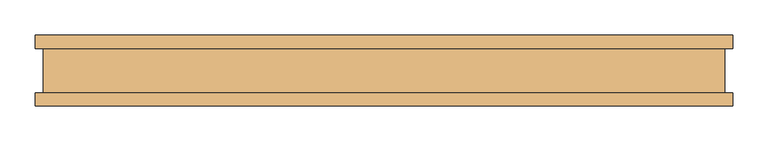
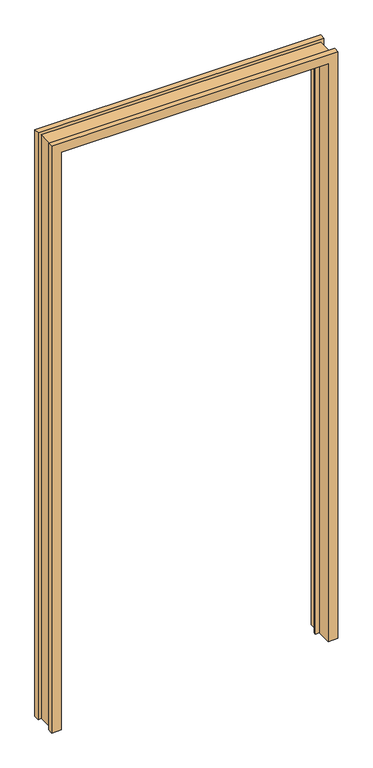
"""IFC4 building model written with IfcOpenShell, lengths in millimetres: door geometry, Frame-Solid_Hinged-AIH-Teknion-FHJA-Jamb_Kit_Single-R2022 : FHJA."""

from ifc_helpers import new_model, si_unit, origin, place, context, project, spatial, faceted_brep, source, transform, mapped, element, save


def door_2b1ba217(model_context):
    return source(origin(), model_context, "Body", "Brep", [
        faceted_brep([(-491.6905792, -31.447233, 0.0), (-480.6923792, -31.447233, 0.0), (-480.6923792, 31.468567, 0.0), (-491.6905792, 31.468567, 0.0), (-491.6905792, 50.010667, 0.0), (-458.6705792, 50.010667, 0.0), (-458.6705792, 10.907167, 0.0), (-445.7165792, 10.907167, 0.0), (-445.7165792, 2.6789063, 0.0), (-458.6705792, 2.6789063, 0.0), (-458.6705792, -49.989233, 0.0), (-491.6905792, -49.989233, 0.0), (-491.6905792, -49.989233, 2133.5925997), (-491.6905792, -31.447233, 2133.5925997), (-458.6705792, -49.989233, 2100.5725997), (458.6705792, -49.989233, 2100.5725997), (458.6705792, -49.989233, 0.0), (491.6905792, -49.989233, 0.0), (491.6905792, -49.989233, 2133.5925997), (-458.6705792, 2.6789063, 2100.5725997), (-445.7165792, 2.6789063, 2087.6185997), (445.7165792, 2.6789063, 2087.6185997), (445.7165792, 2.6789063, 0.0), (458.6705792, 2.6789063, 0.0), (458.6705792, 2.6789063, 2100.5725997), (-445.7165792, 10.907167, 2087.6185997), (-458.6705792, 10.907167, 2100.5725997), (458.6705792, 10.907167, 2100.5725997), (458.6705792, 10.907167, 0.0), (445.7165792, 10.907167, 0.0), (445.7165792, 10.907167, 2087.6185997), (-458.6705792, 50.010667, 2100.5725997), (-491.6905792, 50.010667, 2133.5925997), (491.6905792, 50.010667, 2133.5925997), (491.6905792, 50.010667, 0.0), (458.6705792, 50.010667, 0.0), (458.6705792, 50.010667, 2100.5725997), (-491.6905792, 31.468567, 2133.5925997), (-480.6923792, 31.468567, 2122.5943997), (480.6923792, 31.468567, 2122.5943997), (480.6923792, 31.468567, 0.0), (491.6905792, 31.468567, 0.0), (491.6905792, 31.468567, 2133.5925997), (-480.6923792, -31.447233, 2122.5943997), (491.6905792, -31.447233, 2133.5925997), (491.6905792, -31.447233, 0.0), (480.6923792, -31.447233, 0.0), (480.6923792, -31.447233, 2122.5943997)], [[[0, 1, 2, 3, 4, 5, 6, 7, 8, 9, 10, 11]], [[11, 12, 13, 0]], [[10, 14, 15, 16, 17, 18, 12, 11]], [[9, 19, 14, 10]], [[8, 20, 21, 22, 23, 24, 19, 9]], [[7, 25, 20, 8]], [[6, 26, 27, 28, 29, 30, 25, 7]], [[5, 31, 26, 6]], [[4, 32, 33, 34, 35, 36, 31, 5]], [[3, 37, 32, 4]], [[2, 38, 39, 40, 41, 42, 37, 3]], [[1, 43, 38, 2]], [[0, 13, 44, 45, 46, 47, 43, 1]], [[36, 35, 28, 27]], [[45, 17, 16, 23, 22, 29, 28, 35, 34, 41, 40, 46]], [[47, 46, 40, 39]], [[30, 29, 22, 21]], [[24, 23, 16, 15]], [[18, 17, 45, 44]], [[42, 41, 34, 33]], [[31, 36, 27, 26]], [[43, 47, 39, 38]], [[25, 30, 21, 20]], [[19, 24, 15, 14]], [[12, 18, 44, 13]], [[37, 42, 33, 32]]]),
    ])


if __name__ == "__main__":
    model = new_model("IFC4")
    model_context = context("Model", 3, world=origin())
    ifc_project = project(units=[si_unit("LENGTHUNIT", "METRE", prefix="MILLI")], contexts=[model_context])
    site = spatial("IfcSite", under=ifc_project)
    building = spatial("IfcBuilding", under=site)
    placement = place(None, origin())
    door_shape = door_2b1ba217(model_context)
    element("IfcDoor", 1, ObjectType="Frame-Solid_Hinged-AIH-Teknion-FHJA-Jamb_Kit_Single-R2022 : FHJA", at=placement, inside=building, context=model_context, shape_type="MappedRepresentation", body=[
        mapped(door_shape, transform((0.0, 0.0, 0.0), x_axis=(1.0, 0.0, 0.0), y_axis=(0.0, 1.0, 0.0), z_axis=(0.0, 0.0, 1.0))),
    ])
    save(model, "model.ifc")
